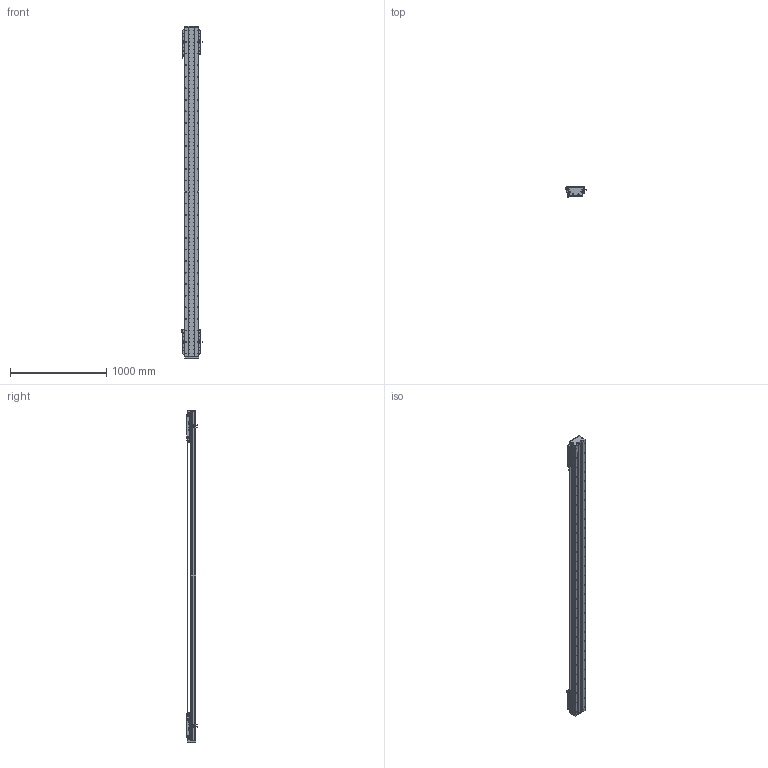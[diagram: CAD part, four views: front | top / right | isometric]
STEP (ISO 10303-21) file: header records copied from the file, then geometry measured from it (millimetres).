
FILE_DESCRIPTION (( 'STEP AP203' ), '1' );
FILE_NAME ('DA-C145-2-C3-T2840-C010-0.2 眻盄萇儂.STEP', '2025-08-14T00:38:15', ( '' ), ( '' ), 'SwSTEP 2.0', 'SolidWorks 2019', '' );
FILE_SCHEMA (( 'CONFIG_CONTROL_DESIGN' ));
Length unit declared in the file: millimetre
Products named in the file (38): 复件 DA145-C3-YB-B-00 压板B^CU145-W 滚珠滑台; CU145-W 幗紩賑怢-1; 复件 DA146 钢带拉块^复件 CU145 钢带组件_DA-C145-2-C3-T-C010-0.2; CU145-W-00 珨极趙賑雄怢啣; 葩璃 DMA-010-0.2 黍杅芛^DA-C145-2-C3-T-C010-0.2; 葩璃 PM-Y65^DA-C145-2-C3-T-C010-0.2; DKW-KGZ-ZJ-00 中间光电开关支架; 葩璃 DA95-HXJ-00 遣喳砎蝶^DA-C145-2-C3-T-C010-0.2; 葩璃 PM-T45^DA-C145-2-C3-T-C010-0.2; 66245-CU145-HT-W-00 賑雄怢啣(3D芞祧)(00); 葩璃 DA95-GT-T-00^IU-CU145-L 菁釱絳寢; 复件 DA145-C3-YB-A-00 压板A^CU145-W 滚珠滑台; DKW168-HXJ-ZJ-00 笢潔滅袉砎蝶; DKW-GYP-ZJ-00 笢潔嫖萇覜茼え; 葩璃 CU145 詩湍郪璃^DA-C145-2-C3-T-C010-0.2; CU145-W 幗紩賑怢; DA-C145-2-C3-T2840-C010-0.2 眻盄萇儂; 复件 DA95-HK-GT-00 滑块钢轨^CU145-W-00 一体化滑动台板; 葩璃 CKMA01-W060-TRL^DA-C145-2-C3-T-C010-0.2; 葩璃 DA145-C3-DP-A-00 菜えA^CU145-W 幗紩賑怢; 复件 纯铜油杯 6x6mm^CU145-W 滚珠滑台; 复件 半圆头内六角螺钉 M3×6^CU145-W 滚珠滑台; 复件 DA145-DG 钢带端盖^复件 CU145 钢带组件_DA-C145-2-C3-T-C010-0.2; 葩璃 XD-U-02L 棠掑喜^DA-C145-2-C3-T-C010-0.2; 复件 DA146 钢带垫块^复件 CU145 钢带组件_DA-C145-2-C3-T-C010-0.2; IU-CU145-L-00 菁釱(L3420); CU145-W-00 珨极趙賑雄怢啣-1; TAY01-M8; 葩璃 DA145-C3-DP-B-00 菜えB^CU145-W 幗紩賑怢; IU-CU145-L 菁釱絳寢; 复件 DA95-MFP-01 密封片^CU145-W 滚珠滑台; 复件 内六角平端紧定螺钉 GB.T77-2000 M5×10^CU145-W 滚珠滑台; 葩璃 CKM03-W060-C1C2-TP-0.2^DA-C145-2-C3-T-C010-0.2; 复件 DA95-DB-00  挡板^CU145-W 滚珠滑台; 复件 DA145 钢带^复件 CU145 钢带组件_DA-C145-2-C3-T-C010-0.2; 复件 DA145-C3-DK-00 挡块^CU145-W 滚珠滑台; 葩璃 鞠褒情蹟譫 M3^DA-C145-2-C3-T-C010-0.2; 复件 DA145-GYP-00 光电感应片^DA-C145-2-C3-T-C010-0.2
Assembly tree (180 placements, depth 4):
  DA-C145-2-C3-T2840-C010-0.2 眻盄萇儂
    IU-CU145-L 菁釱絳寢
      IU-CU145-L-00 菁釱(L3420)
      葩璃 DA95-GT-T-00^IU-CU145-L 菁釱絳寢  x4
    葩璃 CU145 詩湍郪璃^DA-C145-2-C3-T-C010-0.2
      复件 DA145-DG 钢带端盖^复件 CU145 钢带组件_DA-C145-2-C3-T-C010-0.2  x2
      复件 DA146 钢带拉块^复件 CU145 钢带组件_DA-C145-2-C3-T-C010-0.2  x2
      复件 DA146 钢带垫块^复件 CU145 钢带组件_DA-C145-2-C3-T-C010-0.2  x2
      复件 DA145 钢带^复件 CU145 钢带组件_DA-C145-2-C3-T-C010-0.2
    CU145-W 幗紩賑怢
      CU145-W-00 珨极趙賑雄怢啣
        66245-CU145-HT-W-00 賑雄怢啣(3D芞祧)(00)
        复件 DA95-HK-GT-00 滑块钢轨^CU145-W-00 一体化滑动台板  x8
      复件 DA95-MFP-01 密封片^CU145-W 滚珠滑台  x8
      复件 DA95-DB-00  挡板^CU145-W 滚珠滑台  x8
      复件 内六角平端紧定螺钉 GB.T77-2000 M5×10^CU145-W 滚珠滑台  x4
      复件 纯铜油杯 6x6mm^CU145-W 滚珠滑台  x4
      复件 半圆头内六角螺钉 M3×6^CU145-W 滚珠滑台  x16
      复件 DA145-C3-DK-00 挡块^CU145-W 滚珠滑台  x4
      葩璃 DA145-C3-DP-B-00 菜えB^CU145-W 幗紩賑怢  x2
      复件 DA145-C3-YB-B-00 压板B^CU145-W 滚珠滑台  x2
      葩璃 DA145-C3-DP-A-00 菜えA^CU145-W 幗紩賑怢  x3
      复件 DA145-C3-YB-A-00 压板A^CU145-W 滚珠滑台  x3
      TAY01-M8  x4
    CU145-W 幗紩賑怢-1
      CU145-W-00 珨极趙賑雄怢啣-1
        66245-CU145-HT-W-00 賑雄怢啣(3D芞祧)(00)
        复件 DA95-HK-GT-00 滑块钢轨^CU145-W-00 一体化滑动台板  x8
      复件 DA95-MFP-01 密封片^CU145-W 滚珠滑台  x8
      复件 DA95-DB-00  挡板^CU145-W 滚珠滑台  x8
      复件 内六角平端紧定螺钉 GB.T77-2000 M5×10^CU145-W 滚珠滑台  x4
      复件 纯铜油杯 6x6mm^CU145-W 滚珠滑台  x4
      复件 半圆头内六角螺钉 M3×6^CU145-W 滚珠滑台  x16
      复件 DA145-C3-DK-00 挡块^CU145-W 滚珠滑台  x4
      葩璃 DA145-C3-DP-B-00 菜えB^CU145-W 幗紩賑怢  x2
      复件 DA145-C3-YB-B-00 压板B^CU145-W 滚珠滑台  x2
      葩璃 DA145-C3-DP-A-00 菜えA^CU145-W 幗紩賑怢  x3
      复件 DA145-C3-YB-A-00 压板A^CU145-W 滚珠滑台  x3
      TAY01-M8  x4
    葩璃 CKMA01-W060-TRL^DA-C145-2-C3-T-C010-0.2
    葩璃 PM-T45^DA-C145-2-C3-T-C010-0.2  x4
    葩璃 XD-U-02L 棠掑喜^DA-C145-2-C3-T-C010-0.2
    葩璃 DA95-HXJ-00 遣喳砎蝶^DA-C145-2-C3-T-C010-0.2  x4
    葩璃 CKM03-W060-C1C2-TP-0.2^DA-C145-2-C3-T-C010-0.2  x2
    葩璃 DMA-010-0.2 黍杅芛^DA-C145-2-C3-T-C010-0.2  x2
    复件 DA145-GYP-00 光电感应片^DA-C145-2-C3-T-C010-0.2  x2
    DKW-GYP-ZJ-00 笢潔嫖萇覜茼え
    DKW-KGZ-ZJ-00 中间光电开关支架
    葩璃 PM-Y65^DA-C145-2-C3-T-C010-0.2
    葩璃 鞠褒情蹟譫 M3^DA-C145-2-C3-T-C010-0.2  x8
    DKW168-HXJ-ZJ-00 笢潔滅袉砎蝶
Bounding box: 213.7 x 108.45 x 3456 mm (x, y, z)
Volume: 17480577.7 mm3; surface area: 5683907.1 mm2
Topology: 175 solids, 239 shells, 7902 faces, 21891 edges, 13613 vertices
Faces by surface type: cylinder 3597, plane 2965, cone 1184, torus 140, sphere 8, bspline 8
Entity records: 160834 total; most frequent: CARTESIAN_POINT 48920, ORIENTED_EDGE 22468, DIRECTION 20923, EDGE_CURVE 11234, AXIS2_PLACEMENT_3D 7731, VERTEX_POINT 7312, LINE 5461, VECTOR 5461
